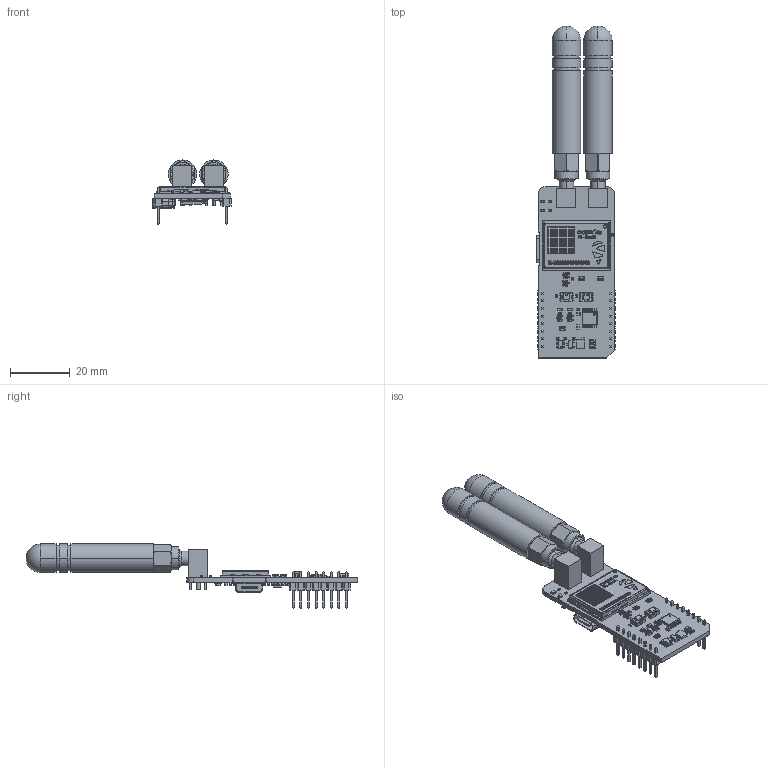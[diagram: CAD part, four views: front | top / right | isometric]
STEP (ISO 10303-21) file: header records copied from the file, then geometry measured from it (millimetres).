
FILE_DESCRIPTION(('Open CASCADE Model'),'2;1');
FILE_NAME('Open CASCADE Shape Model','2026-05-18T09:31:27',('Author'),( 'Open CASCADE'),'Open CASCADE STEP processor 7.5','Open CASCADE 7.5' ,'Unknown');
FILE_SCHEMA(('AUTOMOTIVE_DESIGN { 1 0 10303 214 1 1 1 1 }'));
Length unit declared in the file: millimetre
Products named in the file (135): PCB; Board; Open CASCADE STEP translator 7.5 1.1.1; U4; User Library-TSSOP-16; C13; User Library-SMD CAPACITOR0603; C8; TVS3; User Library-DIODE_SOD-923; T2; User Library-Switch-CK-KMR2; User Library-Switch-CK-KMR2_Button; User Library-Switch-CK-KMR2_Boitier; User Library-Switch-CK-KMR2_Tole; User Library-Switch-CK-KMR2_Pads; R19; User Library-R_0402; R18; Q7; SOT323 (SC70-3)-1; User Library-SOT323 (SC70-3)-1_K_X_F6rper_1; User Library-SOT323 (SC70-3)-1_Beschriftung_1; User Library-SOT323 (SC70-3)-1_Pins_1; LD5; Led_0603; U6; User Library-SOT23-5-2; U5; User Library-TPS73701DCQ; TVS2; TVS1; User Library-R_0603; R17; R16; R15; R14; R13; R12; R11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
Assembly tree (194 placements, depth 10):
  PCB
    Board
      Open CASCADE STEP translator 7.5 1.1.1
    U4
      User Library-TSSOP-16
    C13
      User Library-SMD CAPACITOR0603
    C8
      User Library-SMD CAPACITOR0603
    TVS3
      User Library-DIODE_SOD-923
    T2
      User Library-Switch-CK-KMR2
        User Library-Switch-CK-KMR2_Button
        User Library-Switch-CK-KMR2_Boitier
        User Library-Switch-CK-KMR2_Tole
        User Library-Switch-CK-KMR2_Pads
    R19
      User Library-R_0402
    R18
      User Library-R_0402
    Q7
      SOT323 (SC70-3)-1
        User Library-SOT323 (SC70-3)-1_K_X_F6rper_1
        User Library-SOT323 (SC70-3)-1_Beschriftung_1
        User Library-SOT323 (SC70-3)-1_Pins_1  x3
    LD5
      Led_0603
    U6
      User Library-SOT23-5-2
    U5
      User Library-TPS73701DCQ
    TVS2
      User Library-DIODE_SOD-923
    TVS1
      User Library-R_0603
    R17
      User Library-R_0402
    R16
      User Library-R_0402
    R15
      User Library-R_0402
    R14
      User Library-R_0402
    R13
      User Library-R_0402
    R12
      User Library-R_0402
    R11
      User Library-R_0402
    R10
      User Library-R_0402
    R9
      User Library-R_0402
    R8
      User Library-R_0402
    R7
      User Library-R_0402
    R6
      User Library-R_0402
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Bounding box: 26.13 x 110.72 x 21.36 mm (x, y, z)
Volume: 11131.9 mm3; surface area: 13162.6 mm2
Topology: 220 solids, 220 shells, 11162 faces, 29015 edges, 18529 vertices
Faces by surface type: plane 6191, bspline 3381, cylinder 1350, sphere 194, cone 24, torus 22
Full cylindrical faces by diameter (mm): 0.6 x2
Entity records: 179842 total; most frequent: CARTESIAN_POINT 55589, ORIENTED_EDGE 24046, DIRECTION 19413, EDGE_CURVE 12023, LINE 8815, VECTOR 8815, VERTEX_POINT 7921, AXIS2_PLACEMENT_3D 5299
